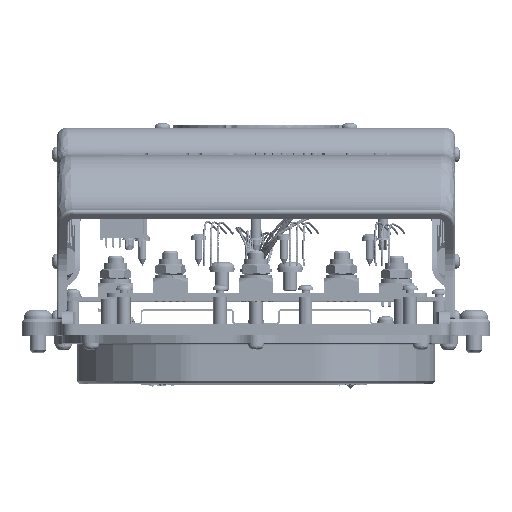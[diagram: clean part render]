
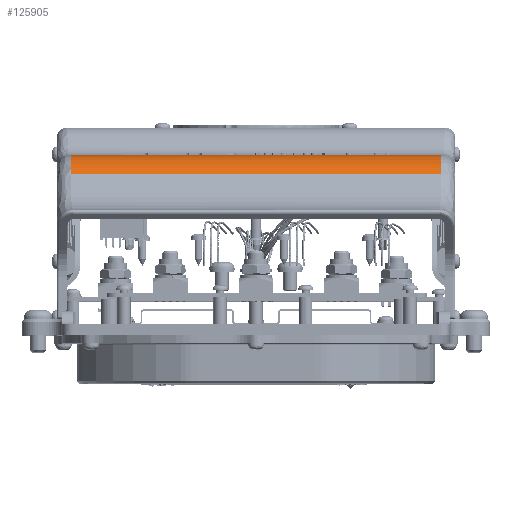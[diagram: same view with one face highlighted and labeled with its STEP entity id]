
A CAD part, top view. The second image highlights one B-rep face of the part: STEP entity #125905.
In plain terms, the highlighted cylindrical face has radius 20 mm (diameter 40 mm), a partial arc.
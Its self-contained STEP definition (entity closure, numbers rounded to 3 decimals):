
#1877=B_SPLINE_CURVE_WITH_KNOTS('',3,(#203906,#203907,#203908,#203909,#203910),
 .UNSPECIFIED.,.F.,.F.,(4,1,4),(-25.035,-24.491,-23.767),
 .UNSPECIFIED.);
#1887=B_SPLINE_CURVE_WITH_KNOTS('',3,(#204031,#204032,#204033,#204034,#204035),
 .UNSPECIFIED.,.F.,.F.,(4,1,4),(-10.311,-9.586,-9.043),
 .UNSPECIFIED.);
#11441=FACE_OUTER_BOUND('',#18879,.T.);
#18879=EDGE_LOOP('',(#91051,#91052,#91053,#91054));
#28287=LINE('',#201753,#37834);
#28463=LINE('',#204030,#38010);
#37834=VECTOR('',#153548,10.);
#38010=VECTOR('',#154196,10.);
#54173=VERTEX_POINT('',#201746);
#54175=VERTEX_POINT('',#201752);
#54340=VERTEX_POINT('',#203898);
#54345=VERTEX_POINT('',#204029);
#67456=EDGE_CURVE('',#54175,#54173,#28287,.T.);
#67801=EDGE_CURVE('',#54340,#54173,#1877,.T.);
#67813=EDGE_CURVE('',#54340,#54345,#28463,.T.);
#67814=EDGE_CURVE('',#54175,#54345,#1887,.T.);
#91051=ORIENTED_EDGE('',*,*,#67801,.F.);
#91052=ORIENTED_EDGE('',*,*,#67813,.T.);
#91053=ORIENTED_EDGE('',*,*,#67814,.F.);
#91054=ORIENTED_EDGE('',*,*,#67456,.T.);
#114856=CYLINDRICAL_SURFACE('',#134653,20.);
#125905=ADVANCED_FACE('',(#11441),#114856,.T.);
#134653=AXIS2_PLACEMENT_3D('',#204028,#154194,#154195);
#153548=DIRECTION('',(-1.,0.,0.));
#154194=DIRECTION('center_axis',(-1.,0.,0.));
#154195=DIRECTION('ref_axis',(0.,0.909,0.416));
#154196=DIRECTION('',(1.,0.,0.));
#201746=CARTESIAN_POINT('',(-79.906,39.777,8.386));
#201752=CARTESIAN_POINT('',(58.854,39.777,8.386));
#201753=CARTESIAN_POINT('',(63.974,39.777,8.386));
#203898=CARTESIAN_POINT('',(-79.724,32.859,23.514));
#203906=CARTESIAN_POINT('Ctrl Pts',(-79.724,32.859,
23.514));
#203907=CARTESIAN_POINT('Ctrl Pts',(-79.749,34.724,
21.901));
#203908=CARTESIAN_POINT('Ctrl Pts',(-79.808,38.362,
17.334));
#203909=CARTESIAN_POINT('Ctrl Pts',(-79.87,39.777,11.634));
#203910=CARTESIAN_POINT('Ctrl Pts',(-79.906,39.777,
8.386));
#204028=CARTESIAN_POINT('Origin',(63.974,19.777,8.386));
#204029=CARTESIAN_POINT('',(58.673,32.859,23.514));
#204030=CARTESIAN_POINT('',(63.974,32.859,23.514));
#204031=CARTESIAN_POINT('Ctrl Pts',(58.854,39.777,8.386));
#204032=CARTESIAN_POINT('Ctrl Pts',(58.819,39.777,11.634));
#204033=CARTESIAN_POINT('Ctrl Pts',(58.757,38.362,17.334));
#204034=CARTESIAN_POINT('Ctrl Pts',(58.698,34.724,21.901));
#204035=CARTESIAN_POINT('Ctrl Pts',(58.673,32.859,23.514));
